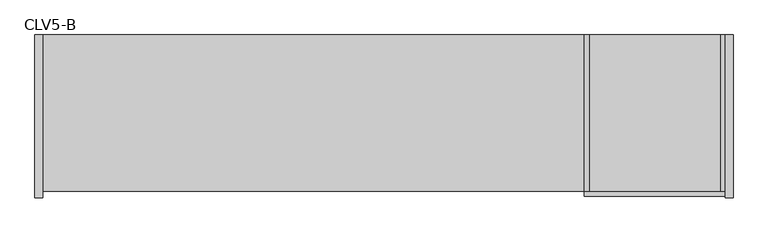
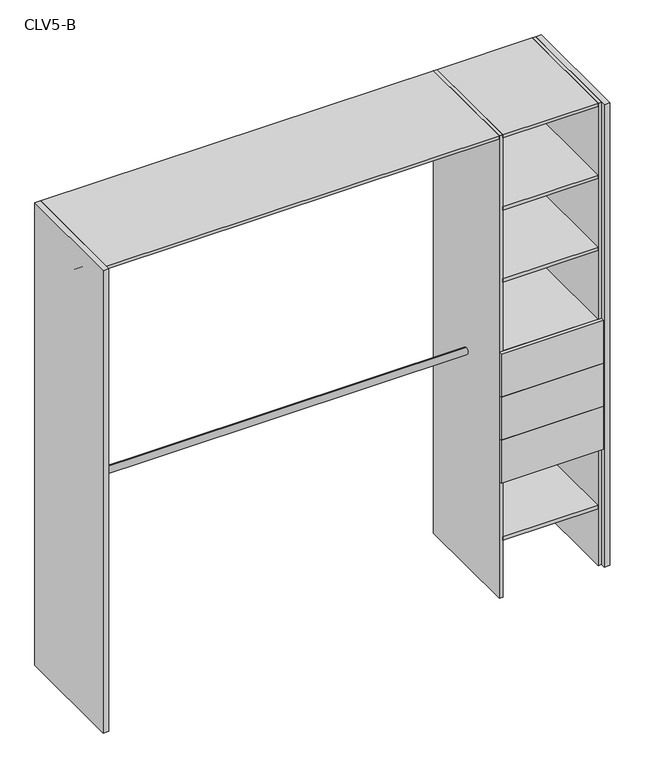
"""IFC4 building model written with IfcOpenShell, lengths in millimetres: furniture geometry, Closet 1estantes-1tubos_2 laterales : CLV5-B."""

from ifc_helpers import new_model, si_unit, point, frame, frame_2d, origin, origin_with_axes, place, context, project, spatial, polyline, circle_curve, trimmed, segment, composite_curve, outline, extrude, source, transform, mapped, element, save


def clv5_b_fad1a009(model_context):
    return source(origin(), model_context, "Body", "SweptSolid", [
        extrude(outline(polyline([(-1954.8678821, 80.0), (-1979.8678821, 80.0), (-1979.8678821, 600.0), (-1954.8678821, 600.0), (-1954.8678821, 80.0)])), origin_with_axes(), (0.0, 0.0, 1.0), 2150.0),
        extrude(outline(polyline([(250.0, 80.0), (225.0, 80.0), (225.0, 600.0), (250.0, 600.0), (250.0, 80.0)])), origin_with_axes(), (0.0, 0.0, 1.0), 2150.0),
        extrude(outline(polyline([(225.0, 100.0), (210.0, 100.0), (210.0, 600.0), (225.0, 600.0), (225.0, 100.0)])), origin_with_axes(), (0.0, 0.0, 1.0), 2150.0),
        extrude(outline(polyline([(-210.0, 100.0), (-225.0, 100.0), (-225.0, 600.0), (-210.0, 600.0), (-210.0, 100.0)])), origin_with_axes(), (0.0, 0.0, 1.0), 2150.0),
        extrude(outline(polyline([(225.0, 100.0), (225.0, 85.0), (-225.0, 85.0), (-225.0, 100.0), (225.0, 100.0)])), frame((0.0, 0.0, 945.0), z_axis=(0.0, 0.0, 1.0), x_axis=(1.0, 0.0, 0.0)), (0.0, 0.0, 1.0), 200.0),
        extrude(outline(polyline([(225.0, 100.0), (225.0, 85.0), (-225.0, 85.0), (-225.0, 100.0), (225.0, 100.0)])), frame((0.0, 0.0, 745.0), z_axis=(0.0, 0.0, 1.0), x_axis=(1.0, 0.0, 0.0)), (0.0, 0.0, 1.0), 200.0),
        extrude(outline(polyline([(225.0, 100.0), (225.0, 85.0), (-225.0, 85.0), (-225.0, 100.0), (225.0, 100.0)])), frame((0.0, 0.0, 545.0), z_axis=(0.0, 0.0, 1.0), x_axis=(1.0, 0.0, 0.0)), (0.0, 0.0, 1.0), 200.0),
        extrude(outline(polyline([(210.0, 100.0), (-210.0, 100.0), (-210.0, 600.0), (210.0, 600.0), (210.0, 100.0)])), frame((0.0, 0.0, 1130.0), z_axis=(0.0, 0.0, 1.0), x_axis=(1.0, 0.0, 0.0)), (0.0, 0.0, 1.0), 15.0),
        extrude(outline(composite_curve([segment(trimmed(circle_curve(frame_2d((350.0, 1000.0)), 15.0), [point((350.0, 1015.0))], [point((350.0, 985.0))], False, "CARTESIAN"), True, "CONTINUOUS"), segment(trimmed(circle_curve(frame_2d((350.0, 1000.0)), 15.0), [point((350.0, 985.0))], [point((350.0, 1015.0))], False, "CARTESIAN"), True, "CONTINUOUS")], self_intersect=False)), frame((-1954.8678821, 0.0, 0.0), z_axis=(1.0, 0.0, 0.0), x_axis=(0.0, 1.0, 0.0)), (0.0, 0.0, 1.0), 1729.8678821),
        extrude(outline(composite_curve([segment(trimmed(circle_curve(frame_2d((350.0, 2000.0)), 15.0), [point((350.0, 2015.0))], [point((350.0, 1985.0))], False, "CARTESIAN"), True, "CONTINUOUS"), segment(trimmed(circle_curve(frame_2d((350.0, 2000.0)), 15.0), [point((350.0, 1985.0))], [point((350.0, 2015.0))], False, "CARTESIAN"), True, "CONTINUOUS")], self_intersect=False)), frame((-1954.8678821, 0.0, 0.0), z_axis=(1.0, 0.0, 0.0), x_axis=(0.0, 1.0, 0.0)), (0.0, 0.0, 1.0), 1729.8678821),
        extrude(outline(polyline([(210.0, 100.0), (-210.0, 100.0), (-210.0, 600.0), (210.0, 600.0), (210.0, 100.0)])), frame((0.0, 0.0, 265.0), z_axis=(0.0, 0.0, 1.0), x_axis=(1.0, 0.0, 0.0)), (0.0, 0.0, 1.0), 15.0),
        extrude(outline(polyline([(210.0, 100.0), (-210.0, 100.0), (-210.0, 600.0), (210.0, 600.0), (210.0, 100.0)])), frame((0.0, 0.0, 545.0), z_axis=(0.0, 0.0, 1.0), x_axis=(1.0, 0.0, 0.0)), (0.0, 0.0, 1.0), 15.0),
        extrude(outline(polyline([(210.0, 100.0), (-210.0, 100.0), (-210.0, 600.0), (210.0, 600.0), (210.0, 100.0)])), frame((0.0, 0.0, 1465.0), z_axis=(0.0, 0.0, 1.0), x_axis=(1.0, 0.0, 0.0)), (0.0, 0.0, 1.0), 15.0),
        extrude(outline(polyline([(210.0, 100.0), (-210.0, 100.0), (-210.0, 600.0), (210.0, 600.0), (210.0, 100.0)])), frame((0.0, 0.0, 1800.0), z_axis=(0.0, 0.0, 1.0), x_axis=(1.0, 0.0, 0.0)), (0.0, 0.0, 1.0), 15.0),
        extrude(outline(polyline([(-210.0, 100.0), (-1954.8678821, 100.0), (-1954.8678821, 600.0), (-210.0, 600.0), (-210.0, 100.0)])), frame((0.0, 0.0, 2135.0), z_axis=(0.0, 0.0, 1.0), x_axis=(1.0, 0.0, 0.0)), (0.0, 0.0, 1.0), 15.0),
        extrude(outline(polyline([(210.0, 100.0), (-210.0, 100.0), (-210.0, 600.0), (210.0, 600.0), (210.0, 100.0)])), frame((0.0, 0.0, 2135.0), z_axis=(0.0, 0.0, 1.0), x_axis=(1.0, 0.0, 0.0)), (0.0, 0.0, 1.0), 15.0),
    ])


if __name__ == "__main__":
    model = new_model("IFC4")
    model_context = context("Model", 3, world=origin())
    ifc_project = project(units=[si_unit("LENGTHUNIT", "METRE", prefix="MILLI")], contexts=[model_context])
    site = spatial("IfcSite", under=ifc_project)
    building = spatial("IfcBuilding", under=site)
    placement = place(None, origin())
    clv5_b_shape = clv5_b_fad1a009(model_context)
    element("IfcFurniture", 1, ObjectType="Closet 1estantes-1tubos_2 laterales : CLV5-B", at=placement, inside=building, context=model_context, shape_type="MappedRepresentation", body=[
        mapped(clv5_b_shape, transform((0.0, 0.0, 0.0), x_axis=(1.0, 0.0, 0.0), y_axis=(0.0, 1.0, 0.0), z_axis=(0.0, 0.0, 1.0))),
    ])
    save(model, "model.ifc")
